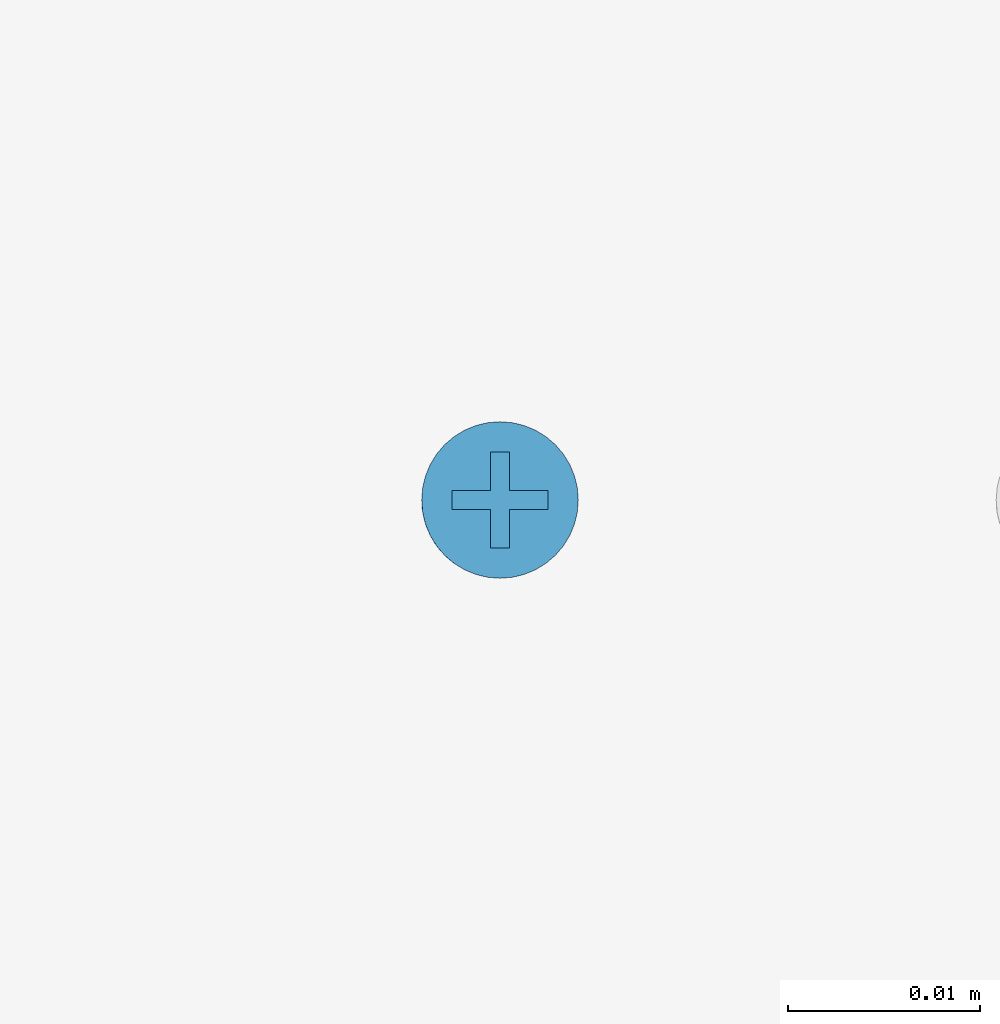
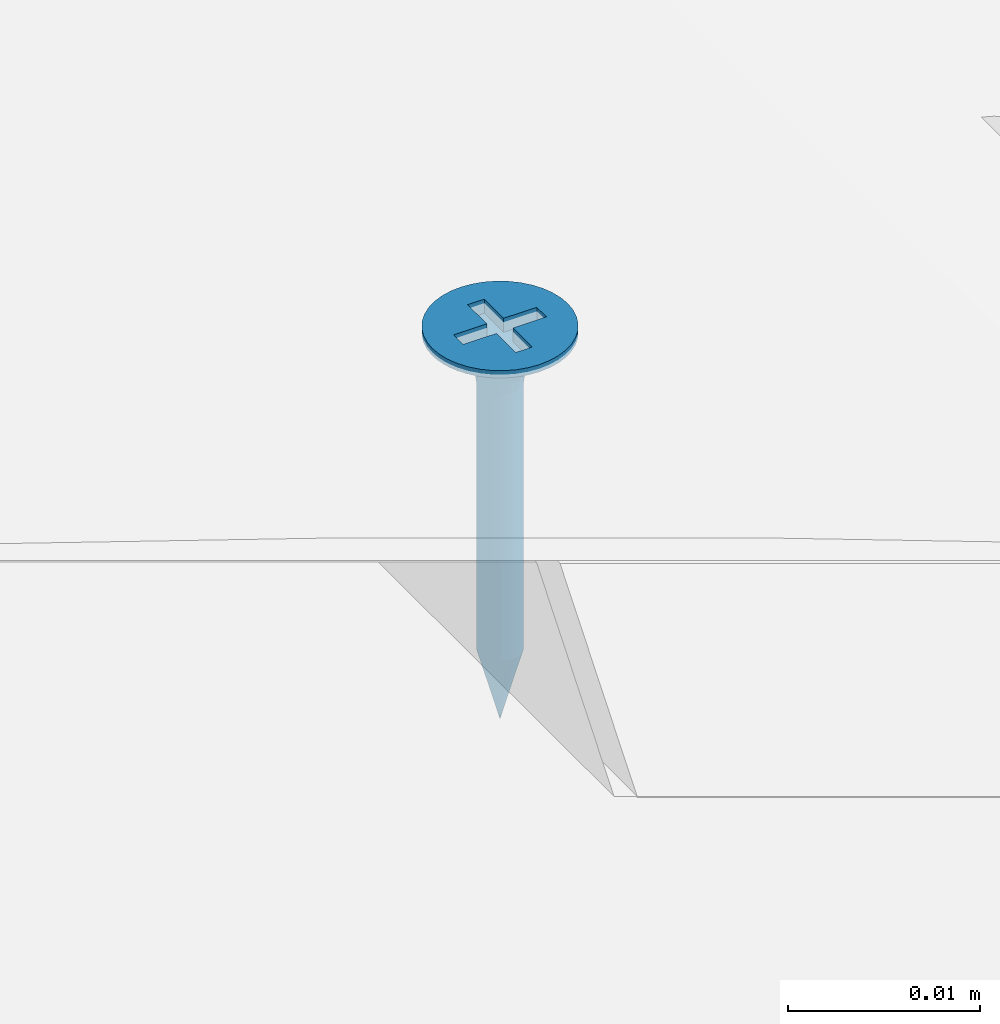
# One storey, part 4 of 47: 1 slab.
"""IFC2X3 building model written with IfcOpenShell, lengths in millimetres."""

from ifc_helpers import new_model, entity, si_unit, converted_unit, direction, frame, origin, origin_with_axes, place, context, project, spatial, faceted_brep, element, save


model = new_model("IFC2X3")

# Units and contexts
model_context = context("Model", 3, precision=1e-05, world=origin(), true_north=direction((0.0, 1.0, 0.0)))
ifc_project = project(units=[si_unit("LENGTHUNIT", "METRE", prefix="MILLI"), si_unit("AREAUNIT", "SQUARE_METRE"), si_unit("VOLUMEUNIT", "CUBIC_METRE"), converted_unit("PLANEANGLEUNIT", "DEGREE", entity("IfcPlaneAngleMeasure", 0.01745), si_unit("PLANEANGLEUNIT", "RADIAN"), dimensions=[0, 0, 0, 0, 0, 0, 0]), si_unit("SOLIDANGLEUNIT", "STERADIAN"), si_unit("MASSUNIT", "GRAM"), si_unit("TIMEUNIT", "SECOND"), si_unit("THERMODYNAMICTEMPERATUREUNIT", "DEGREE_CELSIUS"), si_unit("LUMINOUSINTENSITYUNIT", "LUMEN")], contexts=[model_context])

# Site, building, storey
site_placement = place(None, origin_with_axes())
site = spatial("IfcSite", under=ifc_project, at=site_placement, Name="Default Site", CompositionType="ELEMENT")
building_placement = place(site_placement, origin_with_axes())
building = spatial("IfcBuilding", under=site, at=building_placement, Name="Default Building", CompositionType="ELEMENT")
storey_placement = place(building_placement, origin_with_axes())
storey = spatial("IfcBuildingStorey", under=building, at=storey_placement, Name="Default Building Storey", CompositionType="ELEMENT", Elevation=0.0)

# Slab
slab_placement = place(storey_placement, frame((1792.708178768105, 2007.717823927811, -3328.636918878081), z_axis=(1.0, 5.551115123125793e-17, -3.760325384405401e-13), x_axis=(-5.551115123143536e-17, 1.0, -4.718447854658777e-16)))
element("IfcSlab", 1, at=slab_placement, inside=storey, Name="Wkręt RIGIPS Rigidur 3,9x19 mm", context=model_context, shape_type="Brep", body=[
    faceted_brep([(-141.5377463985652, 3390.556721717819, 555.8000000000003), (-141.5377463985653, 3391.020944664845, 555.8000000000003), (-141.4875329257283, 3391.020944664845, 555.1619773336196), (-141.4875329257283, 3390.556721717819, 555.1619773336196), (-141.3381289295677, 3391.020944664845, 554.5396649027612), (-141.3381289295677, 3390.556721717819, 554.5396649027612), (-141.0932132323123, 3391.020944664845, 553.9483861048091), (-141.0932132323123, 3390.556721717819, 553.9483861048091), (-140.7588164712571, 3391.020944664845, 553.4027001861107), (-140.7588164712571, 3390.556721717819, 553.4027001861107), (-140.3431726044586, 3391.020944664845, 552.9160437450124), (-140.4541727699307, 3390.556721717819, 553.0314907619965), (-140.1080097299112, 3390.556721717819, 552.6986614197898), (-139.8565161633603, 3391.020944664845, 552.5003998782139), (-139.7251262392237, 3390.556721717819, 552.4088262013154), (-139.310830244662, 3391.020944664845, 552.1660031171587), (-139.310830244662, 3390.556721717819, 552.1660031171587), (-138.8708651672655, 3390.556721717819, 551.9735584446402), (-138.7195514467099, 3391.020944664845, 551.9210874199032), (-138.4113302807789, 3390.556721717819, 551.8341600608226), (-137.9385961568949, 3390.556721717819, 551.7497404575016), (-138.0972390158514, 3391.020944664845, 551.7716834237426), (-137.4592163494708, 3391.020944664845, 551.7214699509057), (-137.4592163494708, 3390.556721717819, 551.7214699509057), (-136.8211936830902, 3391.020944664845, 551.7716834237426), (-136.8211936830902, 3390.556721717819, 551.7716834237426), (-136.1988812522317, 3391.020944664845, 551.9210874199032), (-136.1988812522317, 3390.556721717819, 551.9210874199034), (-135.6076024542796, 3391.020944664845, 552.1660031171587), (-135.6076024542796, 3390.556721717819, 552.1660031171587), (-135.0619165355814, 3391.020944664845, 552.5003998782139), (-135.0619165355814, 3390.556721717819, 552.5003998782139), (-134.575260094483, 3391.020944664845, 552.9160437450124), (-134.575260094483, 3390.556721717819, 552.9160437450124), (-134.1596162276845, 3391.020944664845, 553.4027001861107), (-134.1596162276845, 3390.556721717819, 553.4027001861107), (-133.8252194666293, 3391.020944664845, 553.9483861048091), (-133.8252194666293, 3390.556721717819, 553.9483861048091), (-133.5803037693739, 3391.020944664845, 554.5396649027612), (-133.5803037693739, 3390.556721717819, 554.5396649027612), (-133.4308997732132, 3391.020944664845, 556.4380226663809), (-133.4308997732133, 3390.556721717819, 556.4380226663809), (-133.3806863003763, 3390.556721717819, 555.8000000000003), (-133.3806863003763, 3391.020944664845, 555.8000000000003), (-133.4308997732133, 3390.556721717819, 555.1619773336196), (-133.4308997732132, 3391.020944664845, 555.1619773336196), (-133.5803037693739, 3391.020944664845, 557.0603350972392), (-133.5803037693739, 3390.556721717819, 557.0603350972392), (-133.8252194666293, 3391.020944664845, 557.6516138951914), (-133.8252194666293, 3390.556721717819, 557.6516138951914), (-134.1596162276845, 3391.020944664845, 558.1972998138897), (-134.1596162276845, 3390.556721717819, 558.1972998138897), (-134.575260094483, 3391.020944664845, 558.683956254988), (-134.575260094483, 3390.556721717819, 558.683956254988), (-135.0619165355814, 3391.020944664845, 559.0996001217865), (-135.0619165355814, 3390.556721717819, 559.0996001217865), (-135.6076024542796, 3391.020944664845, 559.4339968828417), (-135.6076024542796, 3390.556721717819, 559.4339968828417), (-136.1988812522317, 3391.020944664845, 559.6789125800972), (-136.1988812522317, 3390.556721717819, 559.6789125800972), (-136.8211936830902, 3391.020944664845, 559.8283165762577), (-136.8211936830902, 3390.556721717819, 559.8283165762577), (-137.4592163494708, 3391.020944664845, 559.8785300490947), (-137.4592163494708, 3390.556721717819, 559.8785300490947), (-138.0972390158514, 3391.020944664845, 559.8283165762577), (-138.0972390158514, 3390.556721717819, 559.8283165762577), (-138.7195514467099, 3391.020944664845, 559.6789125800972), (-138.7195514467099, 3390.556721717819, 559.6789125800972), (-139.310830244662, 3391.020944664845, 559.4339968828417), (-139.310830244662, 3390.556721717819, 559.4339968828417), (-139.8565161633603, 3391.020944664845, 559.0996001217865), (-139.8565161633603, 3390.556721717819, 559.0996001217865), (-140.3431726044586, 3391.020944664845, 558.683956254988), (-140.3431726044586, 3390.556721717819, 558.683956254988), (-140.7588164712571, 3391.020944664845, 558.1972998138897), (-140.7588164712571, 3390.556721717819, 558.1972998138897), (-141.0932132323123, 3391.020944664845, 557.6516138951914), (-141.0932132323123, 3390.556721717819, 557.6516138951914), (-141.3381289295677, 3391.020944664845, 557.0603350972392), (-141.3381289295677, 3390.556721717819, 557.0603350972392), (-141.4875329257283, 3391.020944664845, 556.4380226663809), (-141.4875329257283, 3390.556721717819, 556.4380226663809), (-137.80606154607, 3388.229732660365, 554.5055560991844), (-137.4592163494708, 3387.475459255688, 554.5693795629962), (-137.6517277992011, 3387.475459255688, 554.5845305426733), (-137.4592163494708, 3388.229732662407, 554.4598930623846), (-137.8394989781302, 3387.475459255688, 554.6296104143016), (-138.1292698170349, 3388.229732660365, 554.639433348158), (-138.0179063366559, 3387.475459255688, 554.7035091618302), (-138.1825568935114, 3387.475459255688, 554.804407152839), (-138.4068150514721, 3388.229732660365, 554.8524012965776), (-138.3293964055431, 3387.475459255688, 554.929819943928), (-138.6197830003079, 3388.229732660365, 555.1299465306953), (-138.4548091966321, 3387.475459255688, 555.0766594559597), (-138.5557071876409, 3387.475459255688, 555.2413100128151), (-138.7536602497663, 3388.229732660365, 555.4531548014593), (-138.6296059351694, 3387.475459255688, 555.4197173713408), (-138.6746858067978, 3387.475459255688, 555.60748855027), (-138.7993232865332, 3388.229732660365, 555.7999999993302), (-138.6898367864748, 3387.475459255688, 555.8000000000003), (-138.753660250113, 3388.229732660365, 556.1468451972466), (-138.6746858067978, 3387.475459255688, 555.9925114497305), (-138.6296059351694, 3387.475459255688, 556.1802826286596), (-138.619783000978, 3388.229732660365, 556.4700534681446), (-138.5557071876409, 3387.475459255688, 556.3586899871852), (-138.4548091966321, 3387.475459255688, 556.5233405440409), (-138.4068150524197, 3388.229732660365, 556.7475987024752), (-138.3293964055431, 3387.475459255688, 556.6701800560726), (-138.1292698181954, 3388.229732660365, 556.9605666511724), (-138.1825568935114, 3387.475459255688, 556.7955928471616), (-138.0179063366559, 3387.475459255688, 556.8964908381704), (-137.8060615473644, 3388.229732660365, 557.0944439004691), (-137.8394989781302, 3387.475459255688, 556.9703895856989), (-137.6517277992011, 3387.475459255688, 557.0154694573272), (-137.4592163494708, 3388.229732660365, 557.1401069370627), (-137.4592163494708, 3387.475459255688, 557.0306204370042), (-137.1123711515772, 3388.229732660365, 557.0944439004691), (-137.2667048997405, 3387.475459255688, 557.0154694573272), (-137.0789337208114, 3387.475459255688, 556.9703895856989), (-136.7891628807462, 3388.229732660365, 556.9605666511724), (-136.9005263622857, 3387.475459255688, 556.8964908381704), (-136.7358758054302, 3387.475459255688, 556.7955928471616), (-136.5116176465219, 3388.229732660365, 556.7475987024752), (-136.5890362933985, 3387.475459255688, 556.6701800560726), (-136.2986496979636, 3388.229732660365, 556.4700534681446), (-136.4636235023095, 3387.475459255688, 556.5233405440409), (-136.3627255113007, 3387.475459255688, 556.3586899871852), (-136.1647724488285, 3388.229732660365, 556.1468451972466), (-136.2888267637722, 3387.475459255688, 556.1802826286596), (-136.2437468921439, 3387.475459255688, 555.9925114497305), (-136.1191094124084, 3388.229732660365, 555.7999999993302), (-136.2285959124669, 3387.475459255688, 555.8000000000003), (-136.1647724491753, 3388.229732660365, 555.4531548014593), (-136.2437468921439, 3387.475459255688, 555.60748855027), (-136.2888267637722, 3387.475459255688, 555.4197173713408), (-136.2986496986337, 3388.229732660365, 555.1299465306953), (-136.3627255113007, 3387.475459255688, 555.2413100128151), (-136.4636235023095, 3387.475459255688, 555.0766594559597), (-136.5116176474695, 3388.229732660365, 554.8524012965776), (-136.5890362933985, 3387.475459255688, 554.929819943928), (-136.7891628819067, 3388.229732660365, 554.639433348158), (-136.7358758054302, 3387.475459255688, 554.804407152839), (-136.9005263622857, 3387.475459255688, 554.7035091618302), (-137.1123711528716, 3388.229732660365, 554.5055560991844), (-137.0789337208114, 3387.475459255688, 554.6296104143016), (-137.2667048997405, 3387.475459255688, 554.5845305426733), (-137.4592163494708, 3388.936142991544, 554.1737111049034), (-137.8801308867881, 3388.936142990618, 554.229125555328), (-138.2723607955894, 3388.936142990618, 554.3915925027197), (-138.6091762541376, 3388.936142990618, 554.6500400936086), (-138.8676238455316, 3388.936142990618, 554.9868555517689), (-139.0300907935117, 3388.936142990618, 555.3790854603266), (-139.0855052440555, 3388.936142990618, 555.7999999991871), (-139.0300907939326, 3388.936142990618, 556.2209145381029), (-138.8676238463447, 3388.936142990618, 556.6131444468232), (-138.6091762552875, 3388.936142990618, 556.9499599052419), (-138.2723607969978, 3388.936142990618, 557.2084074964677), (-137.880130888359, 3388.936142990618, 557.3708744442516), (-137.4592163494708, 3388.936142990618, 557.426288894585), (-137.0383018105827, 3388.936142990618, 557.3708744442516), (-136.6460719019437, 3388.936142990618, 557.2084074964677), (-136.3092564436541, 3388.936142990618, 556.9499599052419), (-136.0508088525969, 3388.936142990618, 556.6131444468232), (-135.8883419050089, 3388.936142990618, 556.2209145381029), (-135.8329274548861, 3388.936142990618, 555.7999999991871), (-135.8883419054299, 3388.936142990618, 555.3790854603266), (-136.05080885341, 3388.936142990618, 554.9868555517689), (-136.309256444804, 3388.936142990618, 554.6500400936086), (-136.6460719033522, 3388.936142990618, 554.3915925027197), (-137.0383018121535, 3388.936142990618, 554.229125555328), (-137.4592163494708, 3389.553938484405, 553.7273431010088), (-137.9956594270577, 3389.553938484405, 553.7979671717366), (-138.4955447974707, 3389.553938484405, 554.005026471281), (-138.9248060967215, 3389.553938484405, 554.3344102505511), (-139.2541898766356, 3389.553938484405, 554.7636715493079), (-139.4612491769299, 3389.553938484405, 555.2635569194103), (-139.5318732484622, 3389.553938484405, 555.7999999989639), (-139.4612491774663, 3389.553938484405, 556.3364430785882), (-139.2541898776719, 3389.553938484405, 556.8363284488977), (-138.9248060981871, 3389.553938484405, 557.2655897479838), (-138.4955447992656, 3389.553938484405, 557.594973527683), (-137.9956594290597, 3389.553938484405, 557.8020328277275), (-137.4592163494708, 3389.553938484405, 557.8726568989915), (-136.9227732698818, 3389.553938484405, 557.8020328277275), (-136.4228878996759, 3389.553938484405, 557.594973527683), (-135.9936266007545, 3389.553938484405, 557.2655897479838), (-135.6642428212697, 3389.553938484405, 556.8363284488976), (-135.4571835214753, 3389.553938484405, 556.3364430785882), (-135.3865594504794, 3389.553938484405, 555.7999999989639), (-135.4571835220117, 3389.553938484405, 555.2635569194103), (-135.664242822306, 3389.553938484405, 554.7636715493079), (-135.9936266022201, 3389.553938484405, 554.3344102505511), (-136.4228879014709, 3389.553938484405, 554.005026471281), (-136.9227732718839, 3389.553938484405, 553.7979671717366), (-137.4592163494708, 3390.047479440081, 553.1465393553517), (-138.1459824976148, 3390.047479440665, 553.2369538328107), (-138.7859466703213, 3390.047479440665, 553.5020356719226), (-139.3354963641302, 3390.047479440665, 553.9237199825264), (-139.7571806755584, 3390.047479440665, 554.4732696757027), (-140.0222625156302, 3390.047479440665, 555.1132338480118), (-140.1126769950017, 3390.047479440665, 555.7999999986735), (-140.0222625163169, 3390.047479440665, 556.4867661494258), (-139.7571806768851, 3390.047479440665, 557.1267303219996), (-139.3354963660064, 3390.047479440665, 557.6762800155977), (-138.7859466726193, 3390.047479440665, 558.0979643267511), (-138.1459825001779, 3390.047479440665, 558.3630461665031), (-137.4592163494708, 3390.047479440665, 558.4534606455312), (-136.7724501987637, 3390.047479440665, 558.3630461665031), (-136.1324860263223, 3390.047479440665, 558.0979643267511), (-135.5829363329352, 3390.047479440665, 557.6762800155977), (-135.1612520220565, 3390.047479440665, 557.1267303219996), (-134.8961701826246, 3390.047479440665, 556.4867661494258), (-134.8057557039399, 3390.047479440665, 555.7999999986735), (-134.8961701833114, 3390.047479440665, 555.1132338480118), (-135.1612520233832, 3390.047479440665, 554.4732696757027), (-135.5829363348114, 3390.047479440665, 553.9237199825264), (-136.1324860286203, 3390.047479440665, 553.5020356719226), (-136.7724502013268, 3390.047479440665, 553.2369538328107), (-137.4592163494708, 3390.388294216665, 552.4648055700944), (-138.3224281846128, 3390.388294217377, 552.578449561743), (-139.1268135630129, 3390.388294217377, 552.9116368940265), (-139.8175549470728, 3390.388294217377, 553.4416613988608), (-140.3475794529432, 3390.388294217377, 554.1324027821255), (-140.6807667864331, 3390.388294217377, 554.9367881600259), (-140.7944107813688, 3390.388294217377, 555.7999999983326), (-140.6807667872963, 3390.388294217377, 556.6632118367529), (-140.3475794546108, 3390.388294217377, 557.4675972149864), (-139.8175549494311, 3390.388294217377, 558.1583385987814), (-139.1268135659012, 3390.388294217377, 558.6883631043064), (-138.3224281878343, 3390.388294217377, 559.0215504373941), (-137.4592163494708, 3390.388294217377, 559.1351944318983), (-136.5960045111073, 3390.388294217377, 559.0215504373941), (-135.7916191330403, 3390.388294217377, 558.6883631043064), (-135.1008777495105, 3390.388294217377, 558.1583385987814), (-134.5708532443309, 3390.388294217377, 557.4675972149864), (-134.2376659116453, 3390.388294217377, 556.6632118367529), (-134.1240219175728, 3390.388294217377, 555.7999999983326), (-134.2376659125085, 3390.388294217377, 554.9367881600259), (-134.5708532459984, 3390.388294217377, 554.1324027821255), (-135.1008777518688, 3390.388294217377, 553.4416613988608), (-135.7916191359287, 3390.388294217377, 552.9116368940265), (-136.5960045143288, 3390.388294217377, 552.578449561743), (-138.6898367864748, 3370.55807436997, 555.8000000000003), (-138.6746858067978, 3370.55807436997, 555.60748855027), (-138.6296059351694, 3370.55807436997, 555.4197173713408), (-138.5557071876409, 3370.55807436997, 555.2413100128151), (-138.4548091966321, 3370.55807436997, 555.0766594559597), (-138.3293964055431, 3370.55807436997, 554.929819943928), (-138.1825568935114, 3370.55807436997, 554.804407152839), (-138.0179063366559, 3370.55807436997, 554.7035091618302), (-137.8394989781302, 3370.55807436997, 554.6296104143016), (-137.6517277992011, 3370.55807436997, 554.5845305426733), (-137.4592163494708, 3370.55807436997, 554.5693795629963), (-137.2667048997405, 3370.55807436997, 554.5845305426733), (-137.0789337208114, 3370.55807436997, 554.6296104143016), (-136.9005263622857, 3370.55807436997, 554.7035091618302), (-136.7358758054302, 3370.55807436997, 554.804407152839), (-136.5890362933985, 3370.55807436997, 554.929819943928), (-136.4636235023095, 3370.55807436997, 555.0766594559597), (-136.3627255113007, 3370.55807436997, 555.2413100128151), (-136.2888267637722, 3370.55807436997, 555.4197173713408), (-136.2437468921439, 3370.55807436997, 555.9925114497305), (-136.2285959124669, 3370.55807436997, 555.8000000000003), (-136.2437468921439, 3370.55807436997, 555.60748855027), (-136.2888267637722, 3370.55807436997, 556.1802826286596), (-136.3627255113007, 3370.55807436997, 556.3586899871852), (-136.4636235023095, 3370.55807436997, 556.5233405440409), (-136.5890362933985, 3370.55807436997, 556.6701800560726), (-136.7358758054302, 3370.55807436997, 556.7955928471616), (-136.9005263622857, 3370.55807436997, 556.8964908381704), (-137.0789337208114, 3370.55807436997, 556.9703895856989), (-137.2667048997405, 3370.55807436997, 557.0154694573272), (-137.4592163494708, 3370.55807436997, 557.0306204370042), (-137.6517277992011, 3370.55807436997, 557.0154694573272), (-137.8394989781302, 3370.55807436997, 556.9703895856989), (-138.0179063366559, 3370.55807436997, 556.8964908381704), (-138.1825568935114, 3370.55807436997, 556.7955928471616), (-138.3293964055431, 3370.55807436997, 556.6701800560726), (-138.4548091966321, 3370.55807436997, 556.5233405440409), (-138.5557071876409, 3370.55807436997, 556.3586899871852), (-138.6296059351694, 3370.55807436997, 556.1802826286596), (-138.6746858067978, 3370.55807436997, 555.9925114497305), (-137.4592163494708, 3366.021033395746, 555.8000000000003), (-139.9592163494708, 3391.020944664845, 556.3000000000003), (-137.9592163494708, 3391.020944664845, 556.3000000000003), (-139.9592163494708, 3391.020944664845, 555.3000000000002), (-137.9592163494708, 3391.020944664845, 555.3000000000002), (-137.9592163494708, 3391.020944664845, 553.3000000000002), (-136.9592163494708, 3391.020944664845, 553.3000000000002), (-136.9592163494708, 3391.020944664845, 555.3000000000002), (-134.9592163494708, 3391.020944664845, 555.3000000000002), (-134.9592163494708, 3391.020944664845, 556.3000000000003), (-136.9592163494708, 3391.020944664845, 556.3000000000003), (-136.9592163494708, 3391.020944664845, 558.3000000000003), (-137.9592163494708, 3391.020944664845, 558.3000000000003), (-136.9592163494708, 3390.128974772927, 556.3000000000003), (-134.9592163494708, 3390.128974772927, 556.3000000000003), (-134.9592163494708, 3390.128974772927, 555.3000000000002), (-136.9592163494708, 3390.128974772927, 555.3000000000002), (-136.9592163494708, 3390.128974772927, 553.3000000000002), (-137.9592163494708, 3390.128974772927, 553.3000000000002), (-137.9592163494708, 3390.128974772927, 555.3000000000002), (-139.9592163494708, 3390.128974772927, 555.3000000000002), (-139.9592163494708, 3390.128974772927, 556.3000000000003), (-137.9592163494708, 3390.128974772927, 556.3000000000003), (-137.9592163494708, 3390.128974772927, 558.3000000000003), (-136.9592163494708, 3390.128974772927, 558.3000000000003)], [[[0, 1, 2, 3]], [[4, 5, 3, 2]], [[6, 7, 5, 4]], [[7, 6, 8, 9]], [[8, 10, 9]], [[10, 11, 9]], [[12, 11, 13]], [[11, 10, 13]], [[13, 14, 12]], [[13, 15, 14]], [[15, 16, 14]], [[17, 16, 18]], [[16, 15, 18]], [[18, 19, 17]], [[20, 19, 21]], [[19, 18, 21]], [[21, 22, 20]], [[22, 23, 20]], [[23, 22, 24, 25]], [[26, 27, 25, 24]], [[28, 29, 27, 26]], [[29, 28, 30, 31]], [[32, 33, 31, 30]], [[33, 32, 34, 35]], [[36, 37, 35, 34]], [[38, 39, 37, 36]], [[40, 41, 42, 43]], [[43, 42, 44, 45]], [[39, 38, 45, 44]], [[46, 47, 41, 40]], [[48, 49, 47, 46]], [[49, 48, 50, 51]], [[52, 53, 51, 50]], [[53, 52, 54, 55]], [[56, 57, 55, 54]], [[58, 59, 57, 56]], [[59, 58, 60, 61]], [[62, 63, 61, 60]], [[63, 62, 64, 65]], [[66, 67, 65, 64]], [[68, 69, 67, 66]], [[69, 68, 70, 71]], [[72, 73, 71, 70]], [[73, 72, 74, 75]], [[76, 77, 75, 74]], [[78, 79, 77, 76]], [[79, 78, 80, 81]], [[1, 0, 81, 80]], [[82, 83, 84]], [[82, 85, 83]], [[84, 86, 82]], [[82, 86, 87]], [[88, 87, 86]], [[87, 88, 89]], [[89, 90, 87]], [[89, 91, 90]], [[92, 91, 93]], [[92, 90, 91]], [[93, 94, 92]], [[92, 94, 95]], [[96, 95, 94]], [[95, 96, 97]], [[97, 98, 95]], [[97, 99, 98]], [[100, 99, 101]], [[100, 98, 99]], [[101, 102, 100]], [[100, 102, 103]], [[104, 103, 102]], [[103, 104, 105]], [[105, 106, 103]], [[105, 107, 106]], [[108, 107, 109]], [[108, 106, 107]], [[109, 110, 108]], [[108, 110, 111]], [[112, 111, 110]], [[111, 112, 113]], [[113, 114, 111]], [[113, 115, 114]], [[116, 115, 117]], [[116, 114, 115]], [[117, 118, 116]], [[116, 118, 119]], [[120, 119, 118]], [[119, 120, 121]], [[121, 122, 119]], [[121, 123, 122]], [[124, 123, 125]], [[124, 122, 123]], [[125, 126, 124]], [[124, 126, 127]], [[128, 127, 126]], [[127, 128, 129]], [[129, 130, 127]], [[129, 131, 130]], [[132, 131, 133]], [[132, 130, 131]], [[133, 134, 132]], [[132, 134, 135]], [[136, 135, 134]], [[135, 136, 137]], [[137, 138, 135]], [[137, 139, 138]], [[140, 139, 141]], [[140, 138, 139]], [[141, 142, 140]], [[140, 142, 143]], [[144, 143, 142]], [[143, 144, 145]], [[145, 85, 143]], [[145, 83, 85]], [[146, 85, 147]], [[82, 147, 85]], [[87, 148, 147, 82]], [[90, 149, 148, 87]], [[92, 150, 149, 90]], [[95, 151, 150, 92]], [[98, 152, 151, 95]], [[100, 153, 152, 98]], [[103, 154, 153, 100]], [[106, 155, 154, 103]], [[108, 156, 155, 106]], [[111, 157, 156, 108]], [[114, 158, 157, 111]], [[116, 159, 158, 114]], [[119, 160, 159, 116]], [[122, 161, 160, 119]], [[124, 162, 161, 122]], [[127, 163, 162, 124]], [[130, 164, 163, 127]], [[132, 165, 164, 130]], [[135, 166, 165, 132]], [[138, 167, 166, 135]], [[140, 168, 167, 138]], [[143, 169, 168, 140]], [[143, 85, 169]], [[146, 169, 85]], [[170, 146, 171]], [[147, 171, 146]], [[148, 172, 171, 147]], [[149, 173, 172, 148]], [[150, 174, 173, 149]], [[151, 175, 174, 150]], [[152, 176, 175, 151]], [[153, 177, 176, 152]], [[154, 178, 177, 153]], [[155, 179, 178, 154]], [[156, 180, 179, 155]], [[157, 181, 180, 156]], [[158, 182, 181, 157]], [[159, 183, 182, 158]], [[160, 184, 183, 159]], [[161, 185, 184, 160]], [[162, 186, 185, 161]], [[163, 187, 186, 162]], [[164, 188, 187, 163]], [[165, 189, 188, 164]], [[166, 190, 189, 165]], [[167, 191, 190, 166]], [[168, 192, 191, 167]], [[169, 193, 192, 168]], [[169, 146, 193]], [[170, 193, 146]], [[194, 170, 195]], [[171, 195, 170]], [[172, 196, 195, 171]], [[173, 197, 196, 172]], [[174, 198, 197, 173]], [[175, 199, 198, 174]], [[176, 200, 199, 175]], [[177, 201, 200, 176]], [[178, 202, 201, 177]], [[179, 203, 202, 178]], [[180, 204, 203, 179]], [[181, 205, 204, 180]], [[182, 206, 205, 181]], [[183, 207, 206, 182]], [[184, 208, 207, 183]], [[185, 209, 208, 184]], [[186, 210, 209, 185]], [[187, 211, 210, 186]], [[188, 212, 211, 187]], [[189, 213, 212, 188]], [[190, 214, 213, 189]], [[191, 215, 214, 190]], [[192, 216, 215, 191]], [[193, 217, 216, 192]], [[193, 170, 217]], [[194, 217, 170]], [[218, 19, 20]], [[218, 219, 19]], [[20, 23, 218]], [[218, 194, 219]], [[195, 219, 194]], [[219, 16, 17]], [[219, 220, 16]], [[17, 19, 219]], [[196, 220, 219, 195]], [[221, 11, 12]], [[220, 12, 14]], [[220, 221, 12]], [[14, 16, 220]], [[197, 221, 220, 196]], [[222, 7, 9]], [[9, 221, 222]], [[9, 11, 221]], [[198, 222, 221, 197]], [[5, 7, 223]], [[222, 223, 7]], [[199, 223, 222, 198]], [[223, 0, 3]], [[223, 224, 0]], [[3, 5, 223]], [[200, 224, 223, 199]], [[225, 79, 81]], [[81, 224, 225]], [[81, 0, 224]], [[201, 225, 224, 200]], [[225, 226, 77, 79]], [[202, 226, 225, 201]], [[226, 73, 75]], [[226, 227, 73]], [[75, 77, 226]], [[203, 227, 226, 202]], [[228, 69, 71]], [[71, 227, 228]], [[71, 73, 227]], [[204, 228, 227, 203]], [[228, 229, 67, 69]], [[205, 229, 228, 204]], [[229, 63, 65]], [[229, 230, 63]], [[65, 67, 229]], [[206, 230, 229, 205]], [[231, 59, 61]], [[61, 230, 231]], [[61, 63, 230]], [[207, 231, 230, 206]], [[231, 232, 57, 59]], [[208, 232, 231, 207]], [[232, 53, 55]], [[232, 233, 53]], [[55, 57, 232]], [[209, 233, 232, 208]], [[234, 49, 51]], [[51, 233, 234]], [[51, 53, 233]], [[210, 234, 233, 209]], [[234, 235, 47, 49]], [[211, 235, 234, 210]], [[235, 42, 41]], [[235, 236, 42]], [[41, 47, 235]], [[212, 236, 235, 211]], [[237, 39, 44]], [[44, 236, 237]], [[44, 42, 236]], [[213, 237, 236, 212]], [[37, 39, 238]], [[237, 238, 39]], [[214, 238, 237, 213]], [[238, 33, 35]], [[238, 239, 33]], [[35, 37, 238]], [[215, 239, 238, 214]], [[240, 29, 31]], [[31, 239, 240]], [[31, 33, 239]], [[216, 240, 239, 215]], [[27, 29, 241]], [[240, 241, 29]], [[217, 241, 240, 216]], [[217, 194, 241]], [[218, 241, 194]], [[241, 23, 25]], [[241, 218, 23]], [[25, 27, 241]], [[242, 99, 97, 243]], [[96, 244, 243, 97]], [[94, 245, 244, 96]], [[245, 94, 93, 246]], [[91, 247, 246, 93]], [[247, 91, 89, 248]], [[88, 249, 248, 89]], [[86, 250, 249, 88]], [[250, 86, 84, 251]], [[83, 252, 251, 84]], [[252, 83, 145, 253]], [[144, 254, 253, 145]], [[142, 255, 254, 144]], [[255, 142, 141, 256]], [[139, 257, 256, 141]], [[257, 139, 137, 258]], [[136, 259, 258, 137]], [[134, 260, 259, 136]], [[129, 261, 262, 131]], [[131, 262, 263, 133]], [[260, 134, 133, 263]], [[128, 264, 261, 129]], [[126, 265, 264, 128]], [[265, 126, 125, 266]], [[123, 267, 266, 125]], [[267, 123, 121, 268]], [[120, 269, 268, 121]], [[118, 270, 269, 120]], [[270, 118, 117, 271]], [[115, 272, 271, 117]], [[272, 115, 113, 273]], [[112, 274, 273, 113]], [[110, 275, 274, 112]], [[275, 110, 109, 276]], [[107, 277, 276, 109]], [[277, 107, 105, 278]], [[104, 279, 278, 105]], [[102, 280, 279, 104]], [[280, 102, 101, 281]], [[99, 242, 281, 101]], [[243, 244, 282]], [[282, 242, 243]], [[244, 245, 282]], [[246, 247, 282]], [[282, 245, 246]], [[248, 249, 282]], [[282, 247, 248]], [[249, 250, 282]], [[251, 252, 282]], [[282, 250, 251]], [[253, 254, 282]], [[282, 252, 253]], [[254, 255, 282]], [[256, 257, 282]], [[282, 255, 256]], [[258, 259, 282]], [[282, 257, 258]], [[259, 260, 282]], [[263, 262, 282]], [[282, 260, 263]], [[261, 264, 282]], [[282, 262, 261]], [[264, 265, 282]], [[266, 267, 282]], [[282, 265, 266]], [[268, 269, 282]], [[282, 267, 268]], [[269, 270, 282]], [[271, 272, 282]], [[282, 270, 271]], [[273, 274, 282]], [[282, 272, 273]], [[274, 275, 282]], [[276, 277, 282]], [[282, 275, 276]], [[278, 279, 282]], [[282, 277, 278]], [[279, 280, 282]], [[281, 242, 282]], [[282, 280, 281]], [[283, 76, 74, 284]], [[283, 285, 286, 287, 288, 289, 290, 291, 292, 293, 294, 284, 74, 72, 70, 68, 66, 64, 62, 60, 58, 56, 54, 52, 50, 48, 46, 40, 43, 45, 38, 36, 34, 32, 30, 28, 26, 24, 22, 21, 18, 15, 13, 10, 8, 6, 4, 2, 1, 80, 78, 76]], [[295, 296, 297, 298, 299, 300, 301, 302, 303, 304, 305, 306]], [[297, 290, 289, 298]], [[296, 291, 290, 297]], [[295, 292, 291, 296]], [[306, 293, 292, 295]], [[305, 294, 293, 306]], [[304, 284, 294, 305]], [[303, 283, 284, 304]], [[302, 285, 283, 303]], [[301, 286, 285, 302]], [[300, 287, 286, 301]], [[299, 288, 287, 300]], [[298, 289, 288, 299]]]),
])

save(model, "model.ifc")
